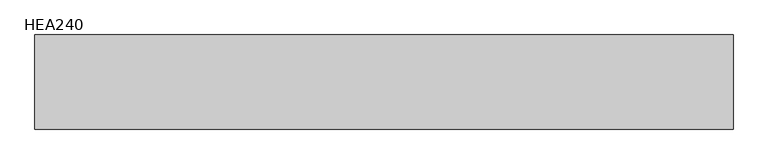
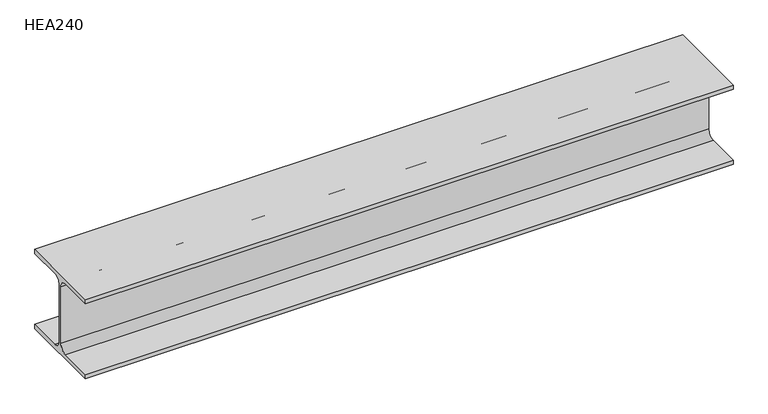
"""IFC4 building model written with IfcOpenShell, lengths in millimetres: beam geometry, HE-A : HEA240."""

from ifc_helpers import new_model, si_unit, point, frame, frame_2d, origin, place, context, project, spatial, polyline, circle_curve, trimmed, segment, composite_curve, outline, extrude, source, transform, mapped, element, save


def hea240_e9e82d21(model_context):
    return source(origin(), model_context, "Body", "SweptSolid", [
        extrude(outline(composite_curve([segment(polyline([(120.0, -103.0), (120.0, -115.0), (-120.0, -115.0), (-120.0, -103.0), (-24.75, -103.0)]), True, "CONTINUOUS"), segment(trimmed(circle_curve(frame_2d((-24.75, -82.0)), 21.0), [point((-24.75, -103.0))], [point((-3.75, -82.0))], True, "CARTESIAN"), True, "CONTINUOUS"), segment(polyline([(-3.75, -82.0), (-3.75, 82.0)]), True, "CONTINUOUS"), segment(trimmed(circle_curve(frame_2d((-24.75, 82.0)), 21.0), [point((-3.75, 82.0))], [point((-24.75, 103.0))], True, "CARTESIAN"), True, "CONTINUOUS"), segment(polyline([(-24.75, 103.0), (-120.0, 103.0), (-120.0, 115.0), (120.0, 115.0), (120.0, 103.0), (24.75, 103.0)]), True, "CONTINUOUS"), segment(trimmed(circle_curve(frame_2d((24.75, 82.0)), 21.0), [point((24.75, 103.0))], [point((3.75, 82.0))], True, "CARTESIAN"), True, "CONTINUOUS"), segment(polyline([(3.75, 82.0), (3.75, -82.0)]), True, "CONTINUOUS"), segment(trimmed(circle_curve(frame_2d((24.75, -82.0)), 21.0), [point((3.75, -82.0))], [point((24.75, -103.0))], True, "CARTESIAN"), True, "CONTINUOUS"), segment(polyline([(24.75, -103.0), (120.0, -103.0)]), True, "CONTINUOUS")], self_intersect=False)), frame((-892.3, 0.0, 0.0), z_axis=(1.0, 0.0, 0.0), x_axis=(0.0, 1.0, 0.0)), (0.0, 0.0, 1.0), 1779.9),
    ])


if __name__ == "__main__":
    model = new_model("IFC4")
    model_context = context("Model", 3, world=origin())
    ifc_project = project(units=[si_unit("LENGTHUNIT", "METRE", prefix="MILLI")], contexts=[model_context])
    site = spatial("IfcSite", under=ifc_project)
    building = spatial("IfcBuilding", under=site)
    placement = place(None, origin())
    hea240_shape = hea240_e9e82d21(model_context)
    element("IfcBeam", 1, ObjectType="HE-A : HEA240", at=placement, inside=building, context=model_context, shape_type="MappedRepresentation", body=[
        mapped(hea240_shape, transform((0.0, 0.0, 0.0), x_axis=(1.0, 0.0, 0.0), y_axis=(0.0, 1.0, 0.0), z_axis=(0.0, 0.0, 1.0))),
    ])
    save(model, "model.ifc")
